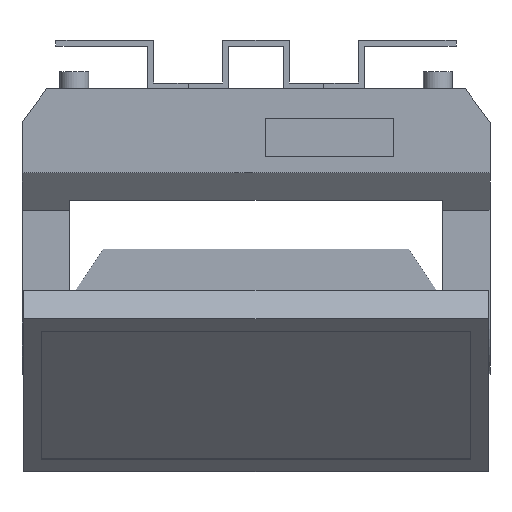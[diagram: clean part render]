
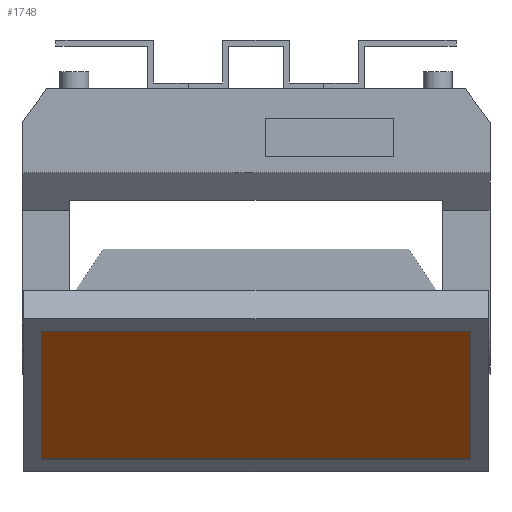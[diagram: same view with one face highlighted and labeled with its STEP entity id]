
A CAD part, front view. The second image highlights one B-rep face of the part: STEP entity #1748.
In plain terms, the highlighted planar face has unit normal (0, -0.707, -0.707) as drawn and (0, 1, 0) by its records, which use the part's own axes.
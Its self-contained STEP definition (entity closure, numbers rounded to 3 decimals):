
#145=FACE_OUTER_BOUND('',#249,.T.);
#249=EDGE_LOOP('',(#1303,#1304,#1305,#1306));
#386=LINE('',#2716,#595);
#387=LINE('',#2718,#596);
#388=LINE('',#2720,#597);
#389=LINE('',#2721,#598);
#595=VECTOR('',#2228,10.);
#596=VECTOR('',#2229,10.);
#597=VECTOR('',#2230,10.);
#598=VECTOR('',#2231,10.);
#794=VERTEX_POINT('',#2714);
#795=VERTEX_POINT('',#2715);
#796=VERTEX_POINT('',#2717);
#797=VERTEX_POINT('',#2719);
#982=EDGE_CURVE('',#794,#795,#386,.T.);
#983=EDGE_CURVE('',#796,#794,#387,.T.);
#984=EDGE_CURVE('',#797,#796,#388,.T.);
#985=EDGE_CURVE('',#795,#797,#389,.T.);
#1303=ORIENTED_EDGE('',*,*,#982,.F.);
#1304=ORIENTED_EDGE('',*,*,#983,.F.);
#1305=ORIENTED_EDGE('',*,*,#984,.F.);
#1306=ORIENTED_EDGE('',*,*,#985,.F.);
#1660=PLANE('',#1970);
#1748=ADVANCED_FACE('',(#145),#1660,.T.);
#1970=AXIS2_PLACEMENT_3D('',#2713,#2226,#2227);
#2226=DIRECTION('center_axis',(0.,1.,0.));
#2227=DIRECTION('ref_axis',(-1.,0.,0.));
#2228=DIRECTION('',(-1.,0.,0.));
#2229=DIRECTION('',(0.,0.,1.));
#2230=DIRECTION('',(1.,0.,0.));
#2231=DIRECTION('',(0.,0.,-1.));
#2713=CARTESIAN_POINT('Origin',(0.,85.7,-205.5));
#2714=CARTESIAN_POINT('',(186.606,85.7,-126.894));
#2715=CARTESIAN_POINT('',(-186.606,85.7,-126.894));
#2716=CARTESIAN_POINT('',(181.113,85.7,-126.894));
#2717=CARTESIAN_POINT('',(186.606,85.7,-284.106));
#2718=CARTESIAN_POINT('',(186.606,85.7,-278.613));
#2719=CARTESIAN_POINT('',(-186.606,85.7,-284.106));
#2720=CARTESIAN_POINT('',(-181.113,85.7,-284.106));
#2721=CARTESIAN_POINT('',(-186.606,85.7,-132.387));
